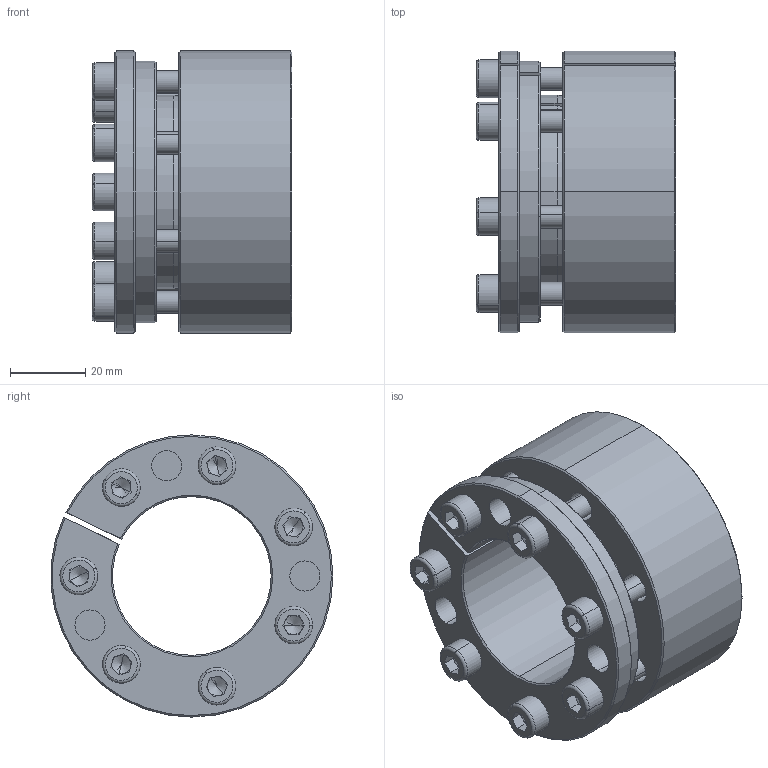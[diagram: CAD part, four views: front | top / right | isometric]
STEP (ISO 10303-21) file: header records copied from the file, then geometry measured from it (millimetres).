
FILE_DESCRIPTION (( 'STEP AP214' ), '1' );
FILE_NAME ('PL-H2 42-75.STEP', '2022-07-25T02:05:49', ( '' ), ( '' ), 'SwSTEP 2.0', 'SolidWorks 2022', '' );
FILE_SCHEMA (( 'AUTOMOTIVE_DESIGN' ));
Length unit declared in the file: millimetre
Products named in the file (1): PL-H2 42-75
Bounding box: 53 x 74.81 x 74.9 mm (x, y, z)
Volume: 112826.8 mm3; surface area: 40594.8 mm2
Topology: 1 solids, 1 shells, 268 faces, 657 edges, 398 vertices
Faces by surface type: plane 113, cylinder 77, cone 64, torus 14
Entity records: 7894 total; most frequent: DIRECTION 1462, CARTESIAN_POINT 1382, ORIENTED_EDGE 1286, EDGE_CURVE 643, AXIS2_PLACEMENT_3D 574, VERTEX_POINT 398, LINE 314, VECTOR 314
